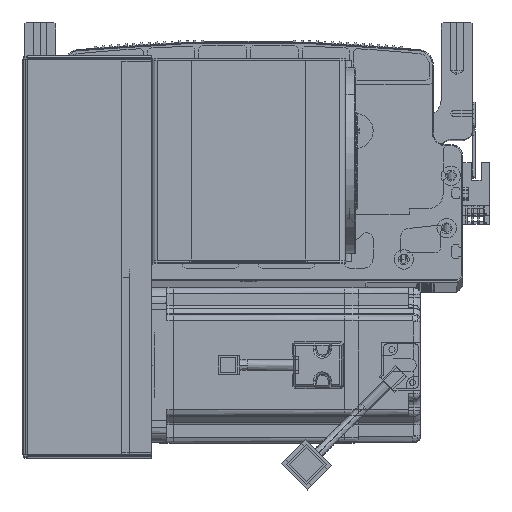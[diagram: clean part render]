
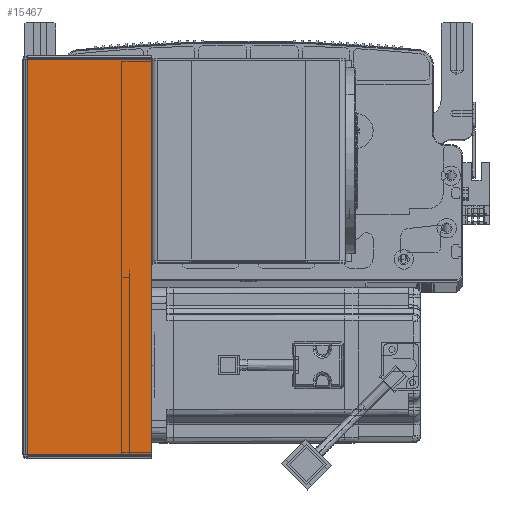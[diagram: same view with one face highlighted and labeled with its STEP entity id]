
A CAD part, top view. The second image highlights one B-rep face of the part: STEP entity #15467.
In plain terms, the highlighted planar face has unit normal (0, 0, 1) as drawn and (0, -1, 0) by its records, which use the part's own axes.
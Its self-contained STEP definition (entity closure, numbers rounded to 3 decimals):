
#2654 = EDGE_LOOP ( 'NONE', ( #68612, #94174, #72501, #27998 ) ) ;
#6636 = FACE_OUTER_BOUND ( 'NONE', #2654, .T. ) ;
#10558 = CARTESIAN_POINT ( 'NONE',  ( 0., -1.5, -0.707 ) ) ;
#15467 = ADVANCED_FACE ( 'NONE', ( #6636 ), #26418, .F. ) ;
#17928 = EDGE_CURVE ( 'NONE', #84286, #94132, #20131, .T. ) ;
#18163 = CARTESIAN_POINT ( 'NONE',  ( 0., -1.5, 0. ) ) ;
#18533 = DIRECTION ( 'NONE',  ( 1., 0., 0. ) ) ;
#20131 = LINE ( 'NONE', #57162, #66228 ) ;
#20576 = CARTESIAN_POINT ( 'NONE',  ( 0.737, -1.5, 0. ) ) ;
#20852 = CARTESIAN_POINT ( 'NONE',  ( 64.5, -1.5, -0.707 ) ) ;
#25912 = EDGE_CURVE ( 'NONE', #27510, #50715, #58517, .T. ) ;
#25980 = EDGE_CURVE ( 'NONE', #94132, #50715, #82132, .T. ) ;
#26418 = PLANE ( 'NONE',  #59294 ) ;
#27510 = VERTEX_POINT ( 'NONE', #50531 ) ;
#27726 = CARTESIAN_POINT ( 'NONE',  ( 64.5, -1.5, -203.293 ) ) ;
#27998 = ORIENTED_EDGE ( 'NONE', *, *, #25912, .F. ) ;
#28200 = DIRECTION ( 'NONE',  ( 0., 0., 1. ) ) ;
#32757 = DIRECTION ( 'NONE',  ( 1., 0., 0. ) ) ;
#33404 = DIRECTION ( 'NONE',  ( -1., 0., 0. ) ) ;
#34207 = CARTESIAN_POINT ( 'NONE',  ( 0.737, -1.5, -203.293 ) ) ;
#46756 = VECTOR ( 'NONE', #32757, 1000. ) ;
#50531 = CARTESIAN_POINT ( 'NONE',  ( 0.737, -1.5, -0.707 ) ) ;
#50715 = VERTEX_POINT ( 'NONE', #20852 ) ;
#57162 = CARTESIAN_POINT ( 'NONE',  ( 0., -1.5, -203.293 ) ) ;
#58517 = LINE ( 'NONE', #10558, #46756 ) ;
#59294 = AXIS2_PLACEMENT_3D ( 'NONE', #18163, #79611, #33404 ) ;
#62015 = VECTOR ( 'NONE', #77366, 1000. ) ;
#66228 = VECTOR ( 'NONE', #18533, 1000. ) ;
#68612 = ORIENTED_EDGE ( 'NONE', *, *, #91931, .F. ) ;
#70724 = CARTESIAN_POINT ( 'NONE',  ( 64.5, -1.5, 0. ) ) ;
#72501 = ORIENTED_EDGE ( 'NONE', *, *, #25980, .T. ) ;
#77366 = DIRECTION ( 'NONE',  ( 0., 0., 1. ) ) ;
#79611 = DIRECTION ( 'NONE',  ( 0., 1., 0. ) ) ;
#80575 = VECTOR ( 'NONE', #28200, 1000. ) ;
#82132 = LINE ( 'NONE', #70724, #62015 ) ;
#84286 = VERTEX_POINT ( 'NONE', #34207 ) ;
#85314 = LINE ( 'NONE', #20576, #80575 ) ;
#91931 = EDGE_CURVE ( 'NONE', #84286, #27510, #85314, .T. ) ;
#94132 = VERTEX_POINT ( 'NONE', #27726 ) ;
#94174 = ORIENTED_EDGE ( 'NONE', *, *, #17928, .T. ) ;
